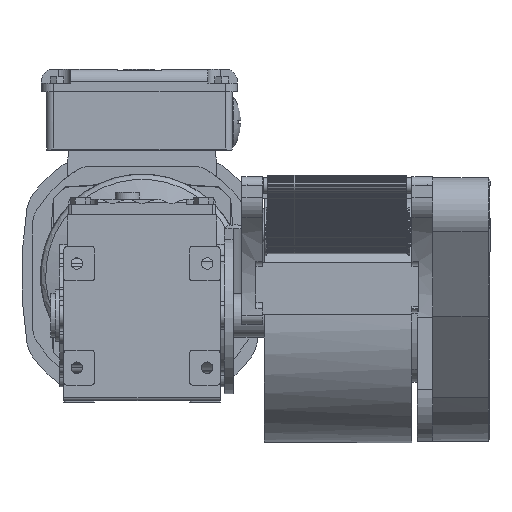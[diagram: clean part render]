
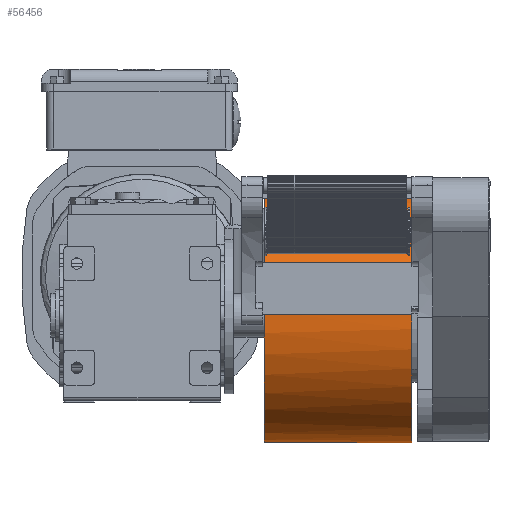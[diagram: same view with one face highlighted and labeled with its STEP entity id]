
A CAD part, left-side view. The second image highlights one B-rep face of the part: STEP entity #56456.
In plain terms, the highlighted cylindrical face has radius 73.3 mm (diameter 146.6 mm), a partial arc.
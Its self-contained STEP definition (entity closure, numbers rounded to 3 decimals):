
#2204=CYLINDRICAL_SURFACE('',#61298,73.3);
#6094=FACE_OUTER_BOUND('',#9181,.T.);
#9181=EDGE_LOOP('',(#47149,#47150,#47151,#47152,#47153));
#12202=CIRCLE('',#60902,73.3);
#12363=CIRCLE('',#61288,73.3);
#12371=CIRCLE('',#61299,73.3);
#16392=LINE('',#94739,#20887);
#16393=LINE('',#94743,#20888);
#20887=VECTOR('',#73818,10.);
#20888=VECTOR('',#73823,10.);
#25155=VERTEX_POINT('',#89354);
#25156=VERTEX_POINT('',#89356);
#25916=VERTEX_POINT('',#94702);
#25917=VERTEX_POINT('',#94704);
#25931=VERTEX_POINT('',#94741);
#32142=EDGE_CURVE('',#25156,#25155,#12202,.T.);
#33282=EDGE_CURVE('',#25916,#25917,#12363,.T.);
#33301=EDGE_CURVE('',#25917,#25155,#16392,.T.);
#33302=EDGE_CURVE('',#25931,#25156,#12371,.T.);
#33303=EDGE_CURVE('',#25916,#25931,#16393,.T.);
#47149=ORIENTED_EDGE('',*,*,#33302,.T.);
#47150=ORIENTED_EDGE('',*,*,#32142,.T.);
#47151=ORIENTED_EDGE('',*,*,#33301,.F.);
#47152=ORIENTED_EDGE('',*,*,#33282,.F.);
#47153=ORIENTED_EDGE('',*,*,#33303,.T.);
#56456=ADVANCED_FACE('',(#6094),#2204,.T.);
#60902=AXIS2_PLACEMENT_3D('',#89357,#72437,#72438);
#61288=AXIS2_PLACEMENT_3D('',#94705,#73787,#73788);
#61298=AXIS2_PLACEMENT_3D('',#94740,#73819,#73820);
#61299=AXIS2_PLACEMENT_3D('',#94742,#73821,#73822);
#72437=DIRECTION('center_axis',(0.,1.,0.));
#72438=DIRECTION('ref_axis',(0.458,0.,-0.889));
#73787=DIRECTION('center_axis',(0.,1.,0.));
#73788=DIRECTION('ref_axis',(0.458,0.,-0.889));
#73818=DIRECTION('',(0.,-1.,0.));
#73819=DIRECTION('center_axis',(0.,-1.,0.));
#73820=DIRECTION('ref_axis',(-0.952,0.,-0.305));
#73821=DIRECTION('center_axis',(0.,1.,0.));
#73822=DIRECTION('ref_axis',(0.458,0.,-0.889));
#73823=DIRECTION('',(0.,-1.,0.));
#89354=CARTESIAN_POINT('',(67.758,-42.5,33.788));
#89356=CARTESIAN_POINT('',(5.109,-42.5,-34.75));
#89357=CARTESIAN_POINT('Origin',(78.3,-42.5,-38.75));
#94702=CARTESIAN_POINT('',(111.843,42.5,-103.925));
#94704=CARTESIAN_POINT('',(67.758,42.5,33.788));
#94705=CARTESIAN_POINT('Origin',(78.3,42.5,-38.75));
#94739=CARTESIAN_POINT('',(67.758,42.5,33.788));
#94740=CARTESIAN_POINT('Origin',(78.3,42.5,-38.75));
#94741=CARTESIAN_POINT('',(111.843,-42.5,-103.925));
#94742=CARTESIAN_POINT('Origin',(78.3,-42.5,-38.75));
#94743=CARTESIAN_POINT('',(111.843,42.5,-103.925));
